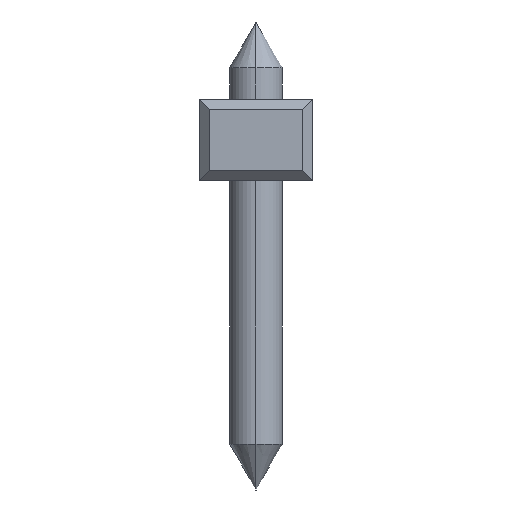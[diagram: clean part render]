
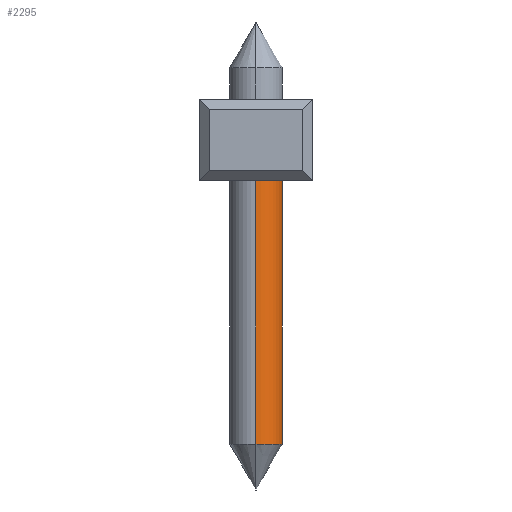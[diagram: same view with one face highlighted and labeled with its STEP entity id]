
A CAD part, left-side view. The second image highlights one B-rep face of the part: STEP entity #2295.
In plain terms, the highlighted cylindrical face has radius 0.65 mm (diameter 1.3 mm), a partial arc.
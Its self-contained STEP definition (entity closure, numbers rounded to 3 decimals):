
#89=CARTESIAN_POINT('',(0.,0.,-0.78));
#90=DIRECTION('',(0.,0.,1.));
#91=DIRECTION('',(-1.,0.,0.));
#92=AXIS2_PLACEMENT_3D('',#89,#90,#91);
#783=CARTESIAN_POINT('',(0.,0.,-7.474));
#784=DIRECTION('',(0.,0.,1.));
#785=DIRECTION('',(-1.,0.,0.));
#786=AXIS2_PLACEMENT_3D('',#783,#784,#785);
#788=DIRECTION('',(0.,0.,1.));
#789=VECTOR('',#788,6.694);
#790=CARTESIAN_POINT('',(-0.65,0.,-7.474));
#791=LINE('',#790,#789);
#797=DIRECTION('',(0.,0.,1.));
#798=VECTOR('',#797,6.694);
#799=CARTESIAN_POINT('',(0.65,0.,-7.474));
#800=LINE('',#799,#798);
#986=CARTESIAN_POINT('',(-0.65,0.,-7.474));
#988=VERTEX_POINT('',#986);
#993=CARTESIAN_POINT('',(0.65,0.,-7.474));
#994=VERTEX_POINT('',#993);
#1001=CARTESIAN_POINT('',(-0.65,0.,-0.78));
#1002=CARTESIAN_POINT('',(0.65,0.,-0.78));
#1003=VERTEX_POINT('',#1001);
#1004=VERTEX_POINT('',#1002);
#2281=CARTESIAN_POINT('',(0.,0.,-9.175));
#2282=DIRECTION('',(0.,0.,1.));
#2283=DIRECTION('',(-1.,0.,0.));
#2284=AXIS2_PLACEMENT_3D('',#2281,#2282,#2283);
#2285=CYLINDRICAL_SURFACE('',#2284,0.65);
#2286=ORIENTED_EDGE('',*,*,#1176,.T.);
#2288=ORIENTED_EDGE('',*,*,#2287,.F.);
#2290=ORIENTED_EDGE('',*,*,#2289,.F.);
#2292=ORIENTED_EDGE('',*,*,#2291,.T.);
#2293=EDGE_LOOP('',(#2286,#2288,#2290,#2292));
#2294=FACE_OUTER_BOUND('',#2293,.F.);
#2295=ADVANCED_FACE('',(#2294),#2285,.T.);
#93=CIRCLE('',#92,0.65);
#787=CIRCLE('',#786,0.65);
#1176=EDGE_CURVE('',#1003,#1004,#93,.T.);
#2287=EDGE_CURVE('',#994,#1004,#800,.T.);
#2289=EDGE_CURVE('',#988,#994,#787,.T.);
#2291=EDGE_CURVE('',#988,#1003,#791,.T.);
